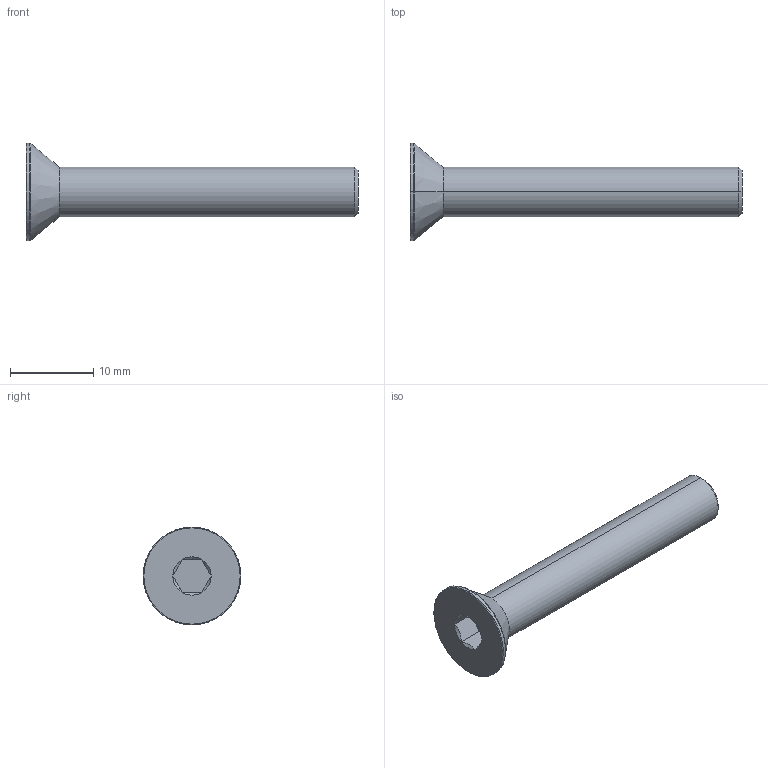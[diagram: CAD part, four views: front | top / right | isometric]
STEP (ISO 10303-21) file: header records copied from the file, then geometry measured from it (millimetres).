
FILE_DESCRIPTION (( 'STEP AP203' ), '1' );
FILE_NAME ('LGDB-TDE-M6x40.STEP', '2026-08-10T13:05:21', ( '' ), ( '' ), 'SwSTEP 2.0', 'SolidWorks 2020', '' );
FILE_SCHEMA (( 'CONFIG_CONTROL_DESIGN' ));
Length unit declared in the file: millimetre
Products named in the file (1): LGDB-TDE-M6x40
Bounding box: 40 x 11.8 x 11.8 mm (x, y, z)
Volume: 1254.6 mm3; surface area: 995.6 mm2
Topology: 1 solids, 1 shells, 28 faces, 53 edges, 28 vertices
Faces by surface type: cone 11, plane 9, torus 4, cylinder 4
Entity records: 796 total; most frequent: CARTESIAN_POINT 157, DIRECTION 129, ORIENTED_EDGE 106, AXIS2_PLACEMENT_3D 54, EDGE_CURVE 53, EDGE_LOOP 29, ADVANCED_FACE 28, VERTEX_POINT 28
